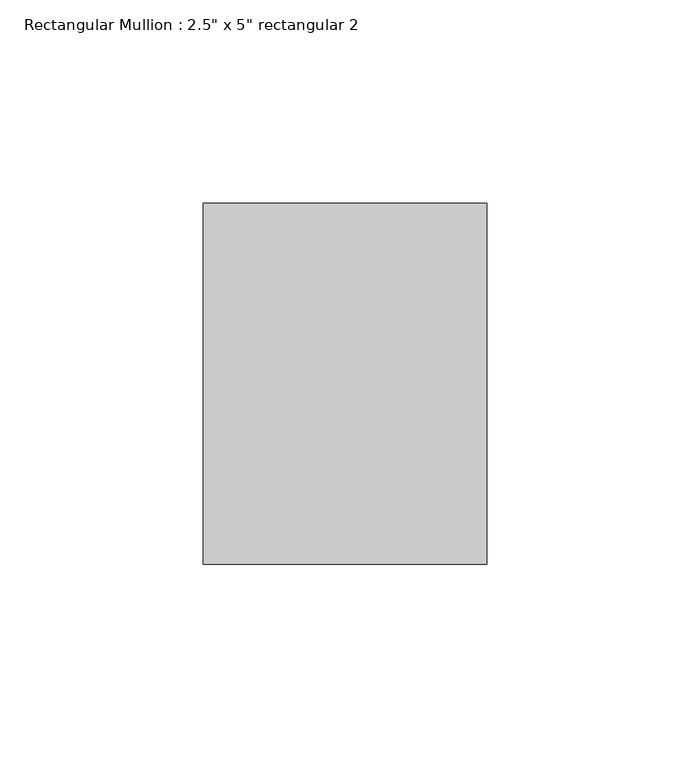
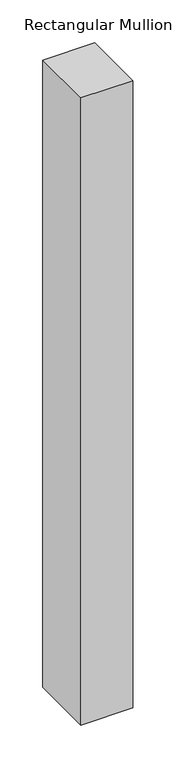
"""IFC4 building model written with IfcOpenShell, lengths in millimetres: member geometry."""

from ifc_helpers import new_model, si_unit, frame, origin, place, context, project, spatial, polyline, outline, extrude, source, transform, mapped, element, save


def member_22347513(model_context):
    return source(origin(), model_context, "Body", "SweptSolid", [
        extrude(outline(polyline([(0.0, 44.45), (0.0, -44.45), (-69.85, -44.45), (-69.85, 44.45), (0.0, 44.45)])), frame((0.0, 0.0, -892.9592539), z_axis=(0.0, 0.0, 1.0), x_axis=(1.0, 0.0, 0.0)), (0.0, 0.0, 1.0), 892.9592539),
    ])


if __name__ == "__main__":
    model = new_model("IFC4")
    model_context = context("Model", 3, world=origin())
    ifc_project = project(units=[si_unit("LENGTHUNIT", "METRE", prefix="MILLI")], contexts=[model_context])
    site = spatial("IfcSite", under=ifc_project)
    building = spatial("IfcBuilding", under=site)
    placement = place(None, origin())
    member_shape = member_22347513(model_context)
    element("IfcMember", 1, ObjectType="Rectangular Mullion : 2.5\" x 5\" rectangular 2", at=placement, inside=building, context=model_context, shape_type="MappedRepresentation", body=[
        mapped(member_shape, transform((0.0, 0.0, 0.0), x_axis=(1.0, 0.0, 0.0), y_axis=(0.0, 1.0, 0.0), z_axis=(0.0, 0.0, 1.0))),
    ])
    save(model, "model.ifc")
